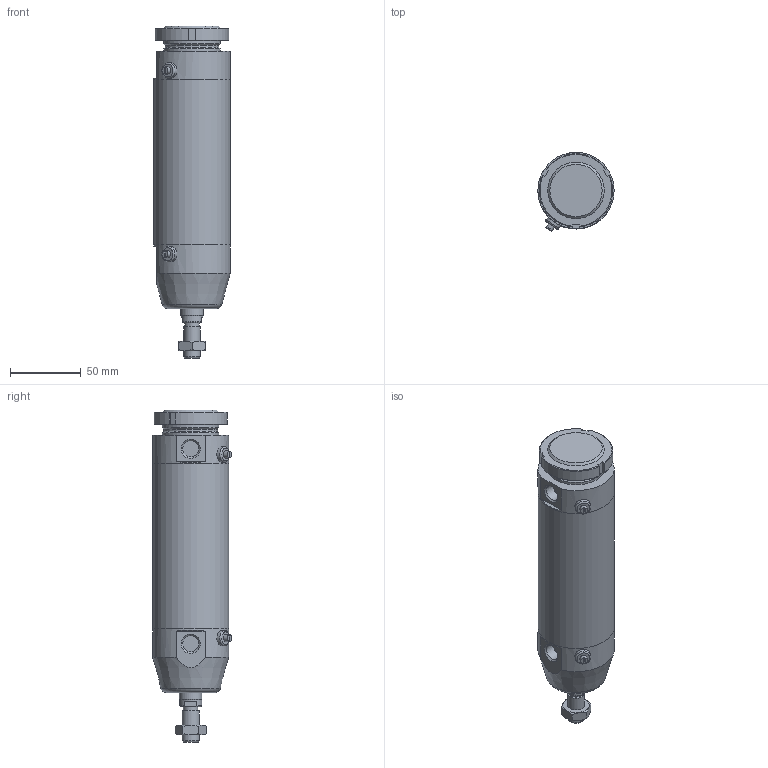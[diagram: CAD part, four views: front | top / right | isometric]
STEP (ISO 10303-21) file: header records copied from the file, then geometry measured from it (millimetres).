
FILE_DESCRIPTION(/* description */ (''),/* implementation_level */ '2;1');
FILE_NAME(/* name */ 'I:\Area Tecnica\Documenti\A-Manieri\_Inventor\12X\12X#B_###_####_#_#\12XBB_050_0075_#_#.stp',/* time_stamp */ '2015-04-28T14:28:33+02:00',/* author */ ('maniean1'),/* organization */ ('Pneumax S.p.A.'),/* preprocessor_version */ 'ST-DEVELOPER v15.2',/* originating_system */ 'Autodesk Inventor 2014',/* authorisation */ '');
FILE_SCHEMA (('AUTOMOTIVE_DESIGN { 1 0 10303 214 3 1 1 }'));
Length unit declared in the file: millimetre
Products named in the file (7): C1250_619-0075; 12X50_614; S12X50_0075; 12X_50_11; 12X50_621; G12X_050_05; 12XBB_050_0075_#_#
Bounding box: 54 x 55.88 x 235 mm (x, y, z)
Volume: 307132.7 mm3; surface area: 85656.7 mm2
Topology: 6 solids, 6 shells, 98 faces, 217 edges, 140 vertices
Faces by surface type: plane 52, cylinder 24, cone 19, torus 3
Full cylindrical faces by diameter (mm): 5 x2, 10.2 x1, 11 x2, 11.4 x2, 12 x2, 14 x1, 15.6 x1, 16 x1, 38.2 x1, 40 x3, 50 x2, 54 x3
Entity records: 2646 total; most frequent: CARTESIAN_POINT 539, DIRECTION 439, ORIENTED_EDGE 346, AXIS2_PLACEMENT_3D 186, EDGE_CURVE 173, EDGE_LOOP 150, VERTEX_POINT 131, ADVANCED_FACE 98
